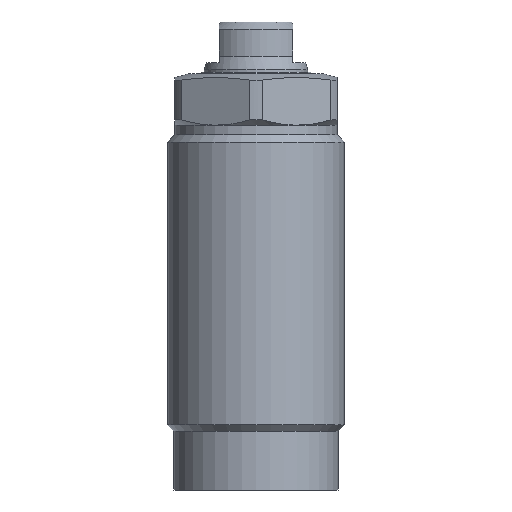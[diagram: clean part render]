
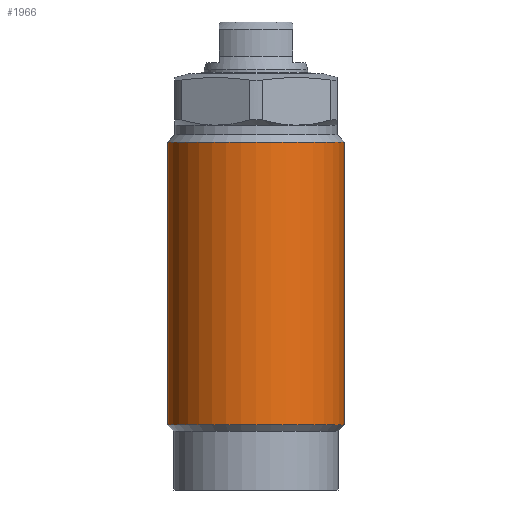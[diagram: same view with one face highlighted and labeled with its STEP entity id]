
A CAD part, front view. The second image highlights one B-rep face of the part: STEP entity #1966.
In plain terms, the highlighted cylindrical face has radius 12 mm (diameter 24 mm), a partial arc.
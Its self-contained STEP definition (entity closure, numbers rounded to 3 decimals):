
#1903=CARTESIAN_POINT('',(-12.0,0.0,-47.65));
#1904=VERTEX_POINT('',#1903);
#1912=CARTESIAN_POINT('',(12.0,0.0,-47.65));
#1913=VERTEX_POINT('',#1912);
#1920=CARTESIAN_POINT('',(0.0,0.0,-47.65));
#1921=DIRECTION('',(0.0,0.0,1.0));
#1922=DIRECTION('',(1.0,0.0,-0.0));
#1923=AXIS2_PLACEMENT_3D('',#1920,#1921,#1922);
#1924=CIRCLE('',#1923,12.0);
#1925=EDGE_CURVE('no 2517',#1904,#1913,#1924,.T.);
#1935=CARTESIAN_POINT('',(-12.,0.0,-9.3));
#1936=VERTEX_POINT('',#1935);
#1937=CARTESIAN_POINT('',(-12.,0.0,-47.65));
#1938=DIRECTION('',(0.,-0.0,1.0));
#1939=VECTOR('',#1938,1.0);
#1940=LINE('',#1937,#1939);
#1941=EDGE_CURVE('no 2527',#1904,#1936,#1940,.T.);
#1942=ORIENTED_EDGE('',*,*,#1941,.F.);
#1943=ORIENTED_EDGE('',*,*,#1925,.T.);
#1944=CARTESIAN_POINT('',(12.,0.0,-9.3));
#1945=VERTEX_POINT('',#1944);
#1946=CARTESIAN_POINT('',(12.,0.0,-47.65));
#1947=DIRECTION('',(0.,0.0,1.0));
#1948=VECTOR('',#1947,1.0);
#1949=LINE('',#1946,#1948);
#1950=EDGE_CURVE('no 2535',#1913,#1945,#1949,.T.);
#1951=ORIENTED_EDGE('',*,*,#1950,.T.);
#1952=CARTESIAN_POINT('',(0.0,0.0,-9.3));
#1953=DIRECTION('',(0.0,0.0,1.0));
#1954=DIRECTION('',(1.0,0.0,-0.0));
#1955=AXIS2_PLACEMENT_3D('',#1952,#1953,#1954);
#1956=CIRCLE('',#1955,12.);
#1957=EDGE_CURVE('no 2539',#1936,#1945,#1956,.T.);
#1958=ORIENTED_EDGE('',*,*,#1957,.F.);
#1959=EDGE_LOOP('',(#1942,#1943,#1951,#1958));
#1960=FACE_OUTER_BOUND('',#1959,.T.);
#1961=CARTESIAN_POINT('',(0.0,0.0,4.2));
#1962=DIRECTION('',(0.0,0.0,1.0));
#1963=DIRECTION('',(0.0,1.0,-0.0));
#1964=AXIS2_PLACEMENT_3D('',#1961,#1962,#1963);
#1965=CYLINDRICAL_SURFACE('',#1964,12.);
#1966=ADVANCED_FACE('no 2520',(#1960),#1965,.T.);
